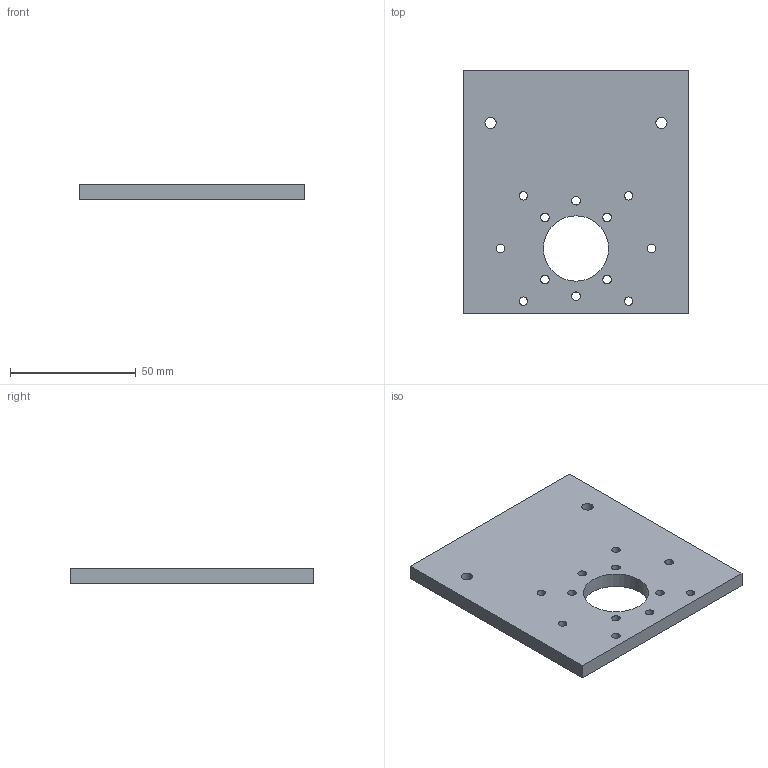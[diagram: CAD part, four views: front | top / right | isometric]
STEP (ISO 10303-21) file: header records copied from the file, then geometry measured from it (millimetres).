
FILE_DESCRIPTION(('Open CASCADE Model'),'2;1');
FILE_NAME('Open CASCADE Shape Model','2026-11-10T18:04:08',('Author'),( 'Open CASCADE'),'Open CASCADE STEP processor 7.9','Open CASCADE 7.9' ,'Unknown');
FILE_SCHEMA(('AUTOMOTIVE_DESIGN { 1 0 10303 214 1 1 1 1 }'));
Length unit declared in the file: millimetre
Products named in the file (1): Open CASCADE STEP translator 7.9 4
Bounding box: 90 x 97 x 6 mm (x, y, z)
Volume: 48349.9 mm3; surface area: 19789.4 mm2
Topology: 1 solids, 1 shells, 21 faces, 57 edges, 38 vertices
Faces by surface type: cylinder 15, plane 6
Full cylindrical faces by diameter (mm): 3.4 x12, 4.5 x2, 26 x1
Entity records: 1492 total; most frequent: DIRECTION 245, CARTESIAN_POINT 231, ORIENTED_EDGE 114, PCURVE 114, DEFINITIONAL_REPRESENTATION 114, LINE 111, VECTOR 111, CIRCLE 60
